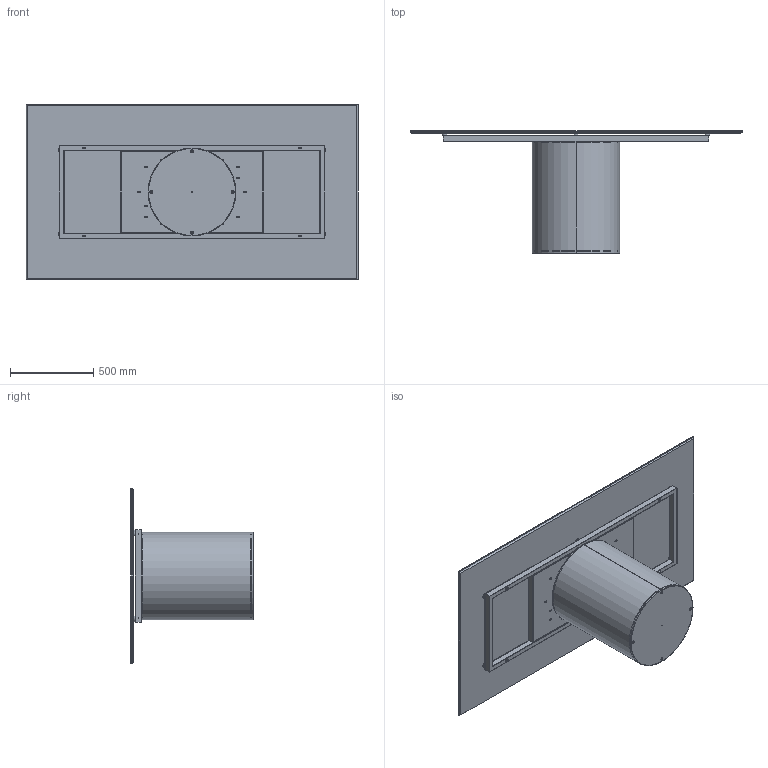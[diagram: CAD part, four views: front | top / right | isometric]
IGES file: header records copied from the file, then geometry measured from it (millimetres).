
Start section: SolidWorks IGES file using analytic representation for surfaces
Global section: file name: Y:\eforma\TECNICO\SOLIDWORKS\E-FORMA\1-TAVOLI\CILINDRO\02 parts\CI21C.IGS; native system: SolidWorks 2022; preprocessor: SolidWorks 2022; author: eforma.tech; date: 240808.092137; units: millimetre
Bounding box: 2000 x 736 x 1060 mm (x, y, z)
Volume: 42416678.5 mm3; surface area: 13661658 mm2
Topology: 25 solids, 25 shells, 582 faces, 1366 edges, 810 vertices
Faces by surface type: revolution 316, plane 266
